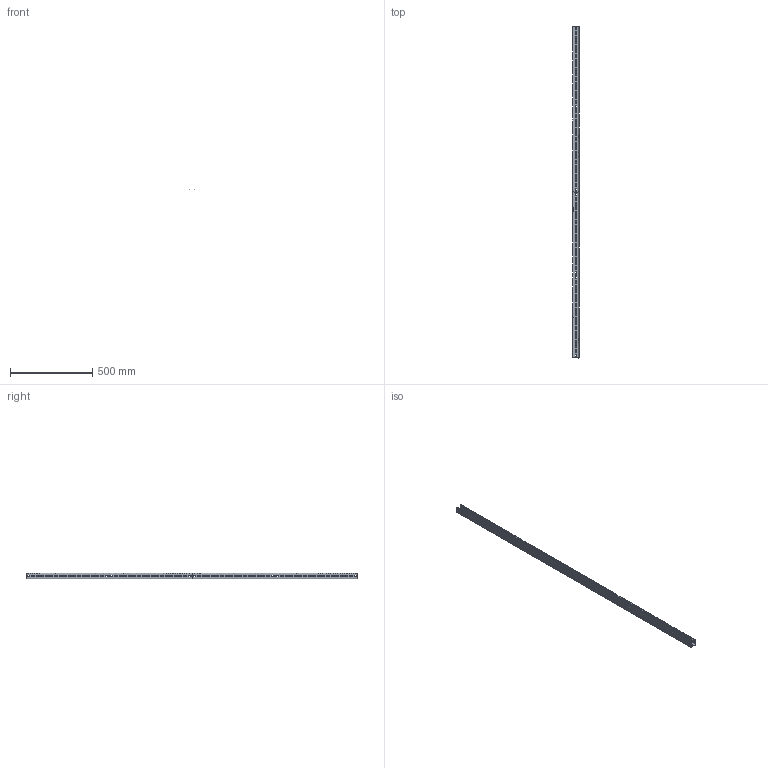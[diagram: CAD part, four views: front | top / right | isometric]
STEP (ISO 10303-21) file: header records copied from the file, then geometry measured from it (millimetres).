
FILE_DESCRIPTION(/* description */ (''),/* implementation_level */ '2;1');
FILE_NAME(/* name */ 'STPM',/* time_stamp */ '2012-11-29T23:00:11+01:00',/* author */ (''),/* organization */ (''),/* preprocessor_version */ 'ST-DEVELOPER v10',/* originating_system */ '',/* authorisation */ '');
FILE_SCHEMA (('AUTOMOTIVE_DESIGN_CC2'));
Length unit declared in the file: millimetre
Products named in the file (1): 1
Bounding box: 40 x 2016 x 35 mm (x, y, z)
Surface area: 440214.1 mm2 (no closed solid volume)
Topology: 0 solids, 228 shells, 444 faces, 1776 edges, 1344 vertices
Faces by surface type: bspline 436, plane 8
Entity records: 36046 total; most frequent: CARTESIAN_POINT 25730, ORIENTED_EDGE 2208, EDGE_CURVE 1776, VERTEX_POINT 1344, EDGE_LOOP 876, B_SPLINE_CURVE_WITH_KNOTS 464, ADVANCED_FACE 444, FACE_OUTER_BOUND 444
